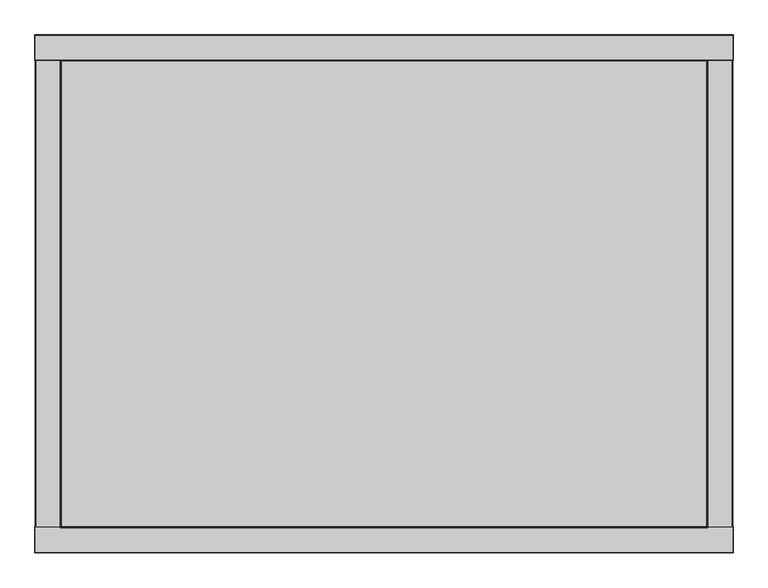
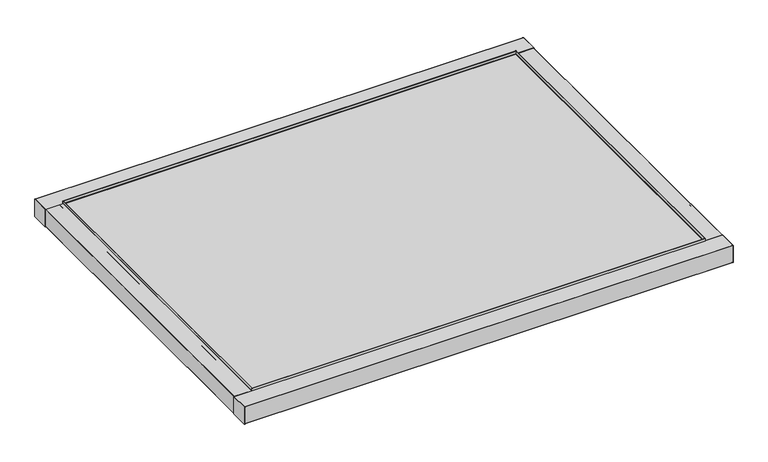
"""IFC4 building model written with IfcOpenShell, lengths in millimetres: proxy geometry, Specialy Equipment_Blindspace_Standard-Pockets-for-Roller-Blinds : 3500 mm x 2600 mm with 130 x 130 mm Box."""

import ifcopenshell
import ifcopenshell.guid

model = None  # the IFC model being written
_history = None  # IfcOwnerHistory: only IFC2X3 demands one
_inside = {}  # id of a spatial element -> (the spatial element, [elements in it])
_under = {}  # id of a project, library or spatial element -> (it, [spatial elements below it])
_declared = {}  # id of a project -> (the project, [libraries it declares])
_typed = {}  # id of a type object -> (the type object, [elements of that type])
_made_of = {}  # id of a material, layer set ... -> (it, [elements and type objects made of it])


def new_model(schema):
    """Start an empty IFC model of exactly this schema.

    Asked for "IFC4X3", IfcOpenShell would pick the latest addendum, in which some entities
    have other attributes; the version numbers below select the first issue.
    IFC2X3 requires an IfcOwnerHistory on every rooted entity: one is made here for all.
    """
    global model, _history
    if schema == "IFC4X3":
        model = ifcopenshell.file(schema_version=(4, 3, 0, 0))
    else:
        model = ifcopenshell.file(schema=schema)
    _inside.clear()
    _under.clear()
    _declared.clear()
    _typed.clear()
    _made_of.clear()
    _history = None
    if model.schema == "IFC2X3":
        org = make("IfcOrganization", Name="unknown")
        user = make(
            "IfcPersonAndOrganization",
            ThePerson=make("IfcPerson", FamilyName="unknown"),
            TheOrganization=org,
        )
        app = make(
            "IfcApplication",
            ApplicationDeveloper=org,
            Version="unknown",
            ApplicationFullName="unknown",
            ApplicationIdentifier="unknown",
        )
        _history = make(
            "IfcOwnerHistory",
            OwningUser=user,
            OwningApplication=app,
            ChangeAction="ADDED",
            CreationDate=0,
        )
    return model


def make(cls, **values):
    """One entity of the class cls with the attributes given. An attribute that is None is left unset."""
    return model.create_entity(
        cls, **{name: value for name, value in values.items() if value is not None}
    )


def rooted(cls, **values):
    """An entity with a GlobalId (a new one), such as an element, a storey or a relation."""
    return make(cls, GlobalId=ifcopenshell.guid.new(), OwnerHistory=_history, **values)


def si_unit(unit_type, name, prefix=None):
    """IfcSIUnit, for example si_unit("LENGTHUNIT", "METRE", prefix="MILLI")."""
    return make("IfcSIUnit", UnitType=unit_type, Prefix=prefix, Name=name)


def assignment(units):
    """IfcUnitAssignment: the units of a project."""
    return None if units is None else make("IfcUnitAssignment", Units=units)


def point(xyz):
    """IfcCartesianPoint."""
    return None if xyz is None else make("IfcCartesianPoint", Coordinates=xyz)


def direction(xyz):
    """IfcDirection."""
    return None if xyz is None else make("IfcDirection", DirectionRatios=xyz)


def frame(location, z_axis=None, x_axis=None):
    """IfcAxis2Placement3D, a coordinate frame: its origin and axes. An axis left out is left unset."""
    return make(
        "IfcAxis2Placement3D",
        Location=point(location),
        Axis=direction(z_axis),
        RefDirection=direction(x_axis),
    )


def frame_2d(location, x_axis=None):
    """IfcAxis2Placement2D, a coordinate frame in the plane: its origin and x axis."""
    return make(
        "IfcAxis2Placement2D", Location=point(location), RefDirection=direction(x_axis)
    )


def origin():
    """The frame at (0, 0, 0) with its axes left unset."""
    return frame((0.0, 0.0, 0.0))


def place(relative_to, where):
    """IfcLocalPlacement: puts the frame where relative to a parent placement (None: the world)."""
    return make(
        "IfcLocalPlacement", PlacementRelTo=relative_to, RelativePlacement=where
    )


def context(
    kind, dimensions, precision=None, world=None, true_north=None, identifier=None
):
    """IfcGeometricRepresentationContext, for example the 3D "Model" context."""
    return make(
        "IfcGeometricRepresentationContext",
        ContextIdentifier=identifier,
        ContextType=kind,
        CoordinateSpaceDimension=dimensions,
        Precision=precision,
        WorldCoordinateSystem=world,
        TrueNorth=true_north,
    )


def project(units=None, contexts=None):
    """IfcProject with its units and contexts."""
    return rooted(
        "IfcProject",
        Name="project",
        RepresentationContexts=contexts,
        UnitsInContext=assignment(units),
    )


def spatial(cls, under=None, at=None, **own):
    """A site, building, storey or space (cls), placed at a placement, below another one or the project."""
    s = rooted(cls, ObjectPlacement=at, **own)
    if under is not None:
        _under.setdefault(under.id(), (under, []))[1].append(s)
    return s


def polyline(points):
    """IfcPolyline through the points."""
    return make("IfcPolyline", Points=[point(p) for p in points])


def circle_curve(where, radius):
    """IfcCircle in the frame where."""
    return make("IfcCircle", Position=where, Radius=radius)


def trimmed(basis, trim1, trim2, sense, master):
    """IfcTrimmedCurve: the piece of a basis curve between two trims."""
    return make(
        "IfcTrimmedCurve",
        BasisCurve=basis,
        Trim1=trim1,
        Trim2=trim2,
        SenseAgreement=sense,
        MasterRepresentation=master,
    )


def segment(curve, same_sense, transition):
    """IfcCompositeCurveSegment."""
    return make(
        "IfcCompositeCurveSegment",
        Transition=transition,
        SameSense=same_sense,
        ParentCurve=curve,
    )


def composite_curve(segments, self_intersect=None):
    """IfcCompositeCurve: segments joined end to end."""
    return make("IfcCompositeCurve", Segments=segments, SelfIntersect=self_intersect)


def outline(outer, holes=None, kind="AREA"):
    """IfcArbitraryClosedProfileDef: a profile drawn as a closed curve; with holes, ...WithVoids."""
    if holes is None:
        return make("IfcArbitraryClosedProfileDef", ProfileType=kind, OuterCurve=outer)
    return make(
        "IfcArbitraryProfileDefWithVoids",
        ProfileType=kind,
        OuterCurve=outer,
        InnerCurves=holes,
    )


def extrude(swept, where, along, depth):
    """IfcExtrudedAreaSolid: the profile swept, set in the frame where, extruded along a direction by depth."""
    return make(
        "IfcExtrudedAreaSolid",
        SweptArea=swept,
        Position=where,
        ExtrudedDirection=direction(along),
        Depth=depth,
    )


def shape(context_of_items, identifier, shape_type, items):
    """IfcShapeRepresentation: the items that make up one representation, for example the "Body"."""
    return make(
        "IfcShapeRepresentation",
        ContextOfItems=context_of_items,
        RepresentationIdentifier=identifier,
        RepresentationType=shape_type,
        Items=items,
    )


def source(mapping_origin, context_of_items, identifier, shape_type, items):
    """IfcRepresentationMap: a shape defined once, which mapped items show again and again."""
    return make(
        "IfcRepresentationMap",
        MappingOrigin=mapping_origin,
        MappedRepresentation=shape(context_of_items, identifier, shape_type, items),
    )


def transform(
    local_origin,
    x_axis=None,
    y_axis=None,
    z_axis=None,
    scale=None,
    scale2=None,
    scale3=None,
    uniform=True,
):
    """IfcCartesianTransformationOperator3D, or its non-uniform kind. x_axis, y_axis, z_axis: its Axis1, 2, 3."""
    if uniform:
        return make(
            "IfcCartesianTransformationOperator3D",
            Axis1=direction(x_axis),
            Axis2=direction(y_axis),
            LocalOrigin=point(local_origin),
            Scale=scale,
            Axis3=direction(z_axis),
        )
    return make(
        "IfcCartesianTransformationOperator3DnonUniform",
        Axis1=direction(x_axis),
        Axis2=direction(y_axis),
        LocalOrigin=point(local_origin),
        Scale=scale,
        Axis3=direction(z_axis),
        Scale2=scale2,
        Scale3=scale3,
    )


def mapped(mapping_source, mapping_target):
    """IfcMappedItem: shows the shape of a source again, moved by a transform."""
    return make(
        "IfcMappedItem", MappingSource=mapping_source, MappingTarget=mapping_target
    )


def made_of(thing, what):
    """Note that an element or type object is made of a material, layer set ...; save() writes the relation."""
    if what is not None:
        _made_of.setdefault(what.id(), (what, []))[1].append(thing)
    return thing


def element(
    cls,
    number,
    at=None,
    inside=None,
    cuts=None,
    type_object=None,
    material=None,
    context=None,
    identifier="Body",
    shape_type=None,
    held_by="IfcProductDefinitionShape",
    body=None,
    shapes=None,
    **own,
):
    """One element of the class cls, such as IfcWall. Its Tag is "e" and its number.

    at: its placement. inside: the storey or other place that contains it. cuts: it is an
    opening in that element (IfcRelVoidsElement). A single representation is given by context,
    identifier, shape_type and body (its items); several are given by shapes. held_by: the class
    of the entity that holds the representations. save() writes the other relations.
    """
    e = rooted(cls, Tag="e%d" % number, ObjectPlacement=at, **own)
    if body is not None:
        shapes = [shape(context, identifier, shape_type, body)]
    if shapes is not None:
        e.Representation = make(held_by, Representations=shapes)
    if inside is not None:
        _inside.setdefault(inside.id(), (inside, []))[1].append(e)
    if cuts is not None:
        rooted(
            "IfcRelVoidsElement", RelatingBuildingElement=cuts, RelatedOpeningElement=e
        )
    if type_object is not None:
        _typed.setdefault(type_object.id(), (type_object, []))[1].append(e)
    return made_of(e, material)


def aggregate(whole, parts):
    """IfcRelAggregates: a whole, such as a stair, and the parts it consists of."""
    return rooted("IfcRelAggregates", RelatingObject=whole, RelatedObjects=parts)


def save(model, path):
    """Write the relations noted so far, then the file.

    IfcRelAggregates (storeys below a building ...), IfcRelContainedInSpatialStructure (elements
    in a storey), IfcRelDefinesByType, IfcRelAssociatesMaterial and IfcRelDeclares: one each for
    every whole, place, type object, material and project.
    """
    for whole, parts in _under.values():
        aggregate(whole, parts)
    for where, things in _inside.values():
        rooted(
            "IfcRelContainedInSpatialStructure",
            RelatedElements=things,
            RelatingStructure=where,
        )
    for kind, things in _typed.values():
        rooted("IfcRelDefinesByType", RelatedObjects=things, RelatingType=kind)
    for what, things in _made_of.values():
        rooted("IfcRelAssociatesMaterial", RelatedObjects=things, RelatingMaterial=what)
    for by, libraries in _declared.values():
        rooted("IfcRelDeclares", RelatingContext=by, RelatedDefinitions=libraries)
    model.write(path)


def specialty_equipment_2e273301(model_context):
    return source(origin(), model_context, "Body", "SweptSolid", [
        extrude(outline(composite_curve([segment(polyline([(-1172.1451772, -20.5), (-1173.5000001, -20.5), (-1173.5000001, -0.3751424)]), True, "CONTINUOUS"), segment(trimmed(circle_curve(frame_2d((-1173.1248154, -0.3751424)), 0.3751847), [point((-1173.5000001, -0.3751424))], [point((-1172.7497998, -0.3638819))], False, "CARTESIAN"), True, "CONTINUOUS"), segment(polyline([(-1172.7497998, -0.3638819), (-1172.1451772, -20.5)]), True, "CONTINUOUS")], self_intersect=False)), frame((-1624.2, 0.0, 0.0), z_axis=(1.0, 0.0, 0.0), x_axis=(0.0, 1.0, 0.0)), (0.0, 0.0, 1.0), 3248.4),
        extrude(outline(composite_curve([segment(polyline([(-1172.1451772, -150.5), (-1172.7497998, -170.6361181)]), True, "CONTINUOUS"), segment(trimmed(circle_curve(frame_2d((-1173.1248154, -170.6248576)), 0.3751847), [point((-1172.7497998, -170.6361181))], [point((-1173.5000001, -170.6248576))], False, "CARTESIAN"), True, "CONTINUOUS"), segment(polyline([(-1173.5000001, -170.6248576), (-1173.5000001, -150.5), (-1172.1451772, -150.5)]), True, "CONTINUOUS")], self_intersect=False)), frame((-1624.2, 0.0, 0.0), z_axis=(1.0, 0.0, 0.0), x_axis=(0.0, 1.0, 0.0)), (0.0, 0.0, 1.0), 3248.4),
        extrude(outline(composite_curve([segment(polyline([(-20.5, 1749.25), (-20.5, 1622.1397061), (-23.0, 1620.0), (-23.0, 1643.0625125), (-28.3, 1643.0625125), (-28.3, 1650.0073096), (-23.0, 1650.0073096), (-23.0, 1738.0030209), (-28.3, 1738.0030209), (-28.3, 1744.991), (-23.0, 1744.991), (-23.0, 1747.5), (-147.9999999, 1747.5), (-147.9999999, 1744.991), (-142.6999999, 1744.991), (-142.6999999, 1738.0030209), (-147.9999999, 1738.0030209), (-147.9999999, 1650.0073096), (-142.6999999, 1650.0073096), (-142.6999999, 1643.0625125), (-147.9999999, 1643.0625125), (-147.9999999, 1622.4875145), (-54.4999999, 1622.4875145), (-54.4999999, 1627.4875145), (-51.9999999, 1627.4875145), (-51.9999999, 1620.0), (-147.9999999, 1620.0), (-150.4999999, 1622.1397061), (-150.4999999, 1749.25)]), True, "CONTINUOUS"), segment(trimmed(circle_curve(frame_2d((-149.7499999, 1749.25)), 0.75), [point((-150.4999999, 1749.25))], [point((-149.7499999, 1750.0))], False, "CARTESIAN"), True, "CONTINUOUS"), segment(polyline([(-149.7499999, 1750.0), (-21.25, 1750.0)]), True, "CONTINUOUS"), segment(trimmed(circle_curve(frame_2d((-21.25, 1749.25)), 0.75), [point((-21.25, 1750.0))], [point((-20.5, 1749.25))], False, "CARTESIAN"), True, "CONTINUOUS")], self_intersect=False)), frame((0.0, -1170.0, 0.0), z_axis=(0.0, 1.0, 0.0), x_axis=(0.0, 0.0, 1.0)), (0.0, 0.0, 1.0), 2340.0),
        extrude(outline(composite_curve([segment(polyline([(-1299.25, -20.5), (-1172.1397061, -20.5), (-1170.0, -23.0), (-1193.0625125, -23.0), (-1193.0625125, -28.3), (-1200.0073096, -28.3), (-1200.0073096, -23.0), (-1288.0030209, -23.0), (-1288.0030209, -28.3), (-1294.991, -28.3), (-1294.991, -23.0), (-1297.5, -23.0), (-1297.5, -147.9999999), (-1294.991, -147.9999999), (-1294.991, -142.6999999), (-1288.0030209, -142.6999999), (-1288.0030209, -147.9999999), (-1200.0073096, -147.9999999), (-1200.0073096, -142.6999999), (-1193.0625125, -142.6999999), (-1193.0625125, -147.9999999), (-1172.4875145, -147.9999999), (-1172.4875145, -54.4999999), (-1177.4875145, -54.4999999), (-1177.4875145, -51.9999999), (-1170.0, -51.9999999), (-1170.0, -147.9999999), (-1172.1397061, -150.4999999), (-1299.25, -150.4999999)]), True, "CONTINUOUS"), segment(trimmed(circle_curve(frame_2d((-1299.25, -149.7499999)), 0.75), [point((-1299.25, -150.4999999))], [point((-1300.0, -149.7499999))], False, "CARTESIAN"), True, "CONTINUOUS"), segment(polyline([(-1300.0, -149.7499999), (-1300.0, -21.25)]), True, "CONTINUOUS"), segment(trimmed(circle_curve(frame_2d((-1299.25, -21.25)), 0.75), [point((-1300.0, -21.25))], [point((-1299.25, -20.5))], False, "CARTESIAN"), True, "CONTINUOUS")], self_intersect=False)), frame((-1750.0, 0.0, 0.0), z_axis=(1.0, 0.0, 0.0), x_axis=(0.0, 1.0, 0.0)), (0.0, 0.0, 1.0), 3500.0),
        extrude(outline(composite_curve([segment(polyline([(-20.5, 1622.8451771), (-20.5, 1624.2), (-0.3751424, 1624.2)]), True, "CONTINUOUS"), segment(trimmed(circle_curve(frame_2d((-0.3751424, 1623.8248153)), 0.3751847), [point((-0.3751424, 1624.2))], [point((-0.3638819, 1623.4497997))], False, "CARTESIAN"), True, "CONTINUOUS"), segment(polyline([(-0.3638819, 1623.4497997), (-20.5, 1622.8451771)]), True, "CONTINUOUS")], self_intersect=False)), frame((0.0, -1170.0, 0.0), z_axis=(0.0, 1.0, 0.0), x_axis=(0.0, 0.0, 1.0)), (0.0, 0.0, 1.0), 2340.0),
        extrude(outline(composite_curve([segment(polyline([(-150.4999999, 1622.8451771), (-170.636118, 1623.4497997)]), True, "CONTINUOUS"), segment(trimmed(circle_curve(frame_2d((-170.6248575, 1623.8248153)), 0.3751847), [point((-170.636118, 1623.4497997))], [point((-170.6248575, 1624.2))], False, "CARTESIAN"), True, "CONTINUOUS"), segment(polyline([(-170.6248575, 1624.2), (-150.4999999, 1624.2), (-150.4999999, 1622.8451771)]), True, "CONTINUOUS")], self_intersect=False)), frame((0.0, -1170.0, 0.0), z_axis=(0.0, 1.0, 0.0), x_axis=(0.0, 0.0, 1.0)), (0.0, 0.0, 1.0), 2340.0),
        extrude(outline(composite_curve([segment(trimmed(circle_curve(frame_2d((-21.25, -1749.25)), 0.75), [point((-20.5, -1749.25))], [point((-21.25, -1750.0))], False, "CARTESIAN"), True, "CONTINUOUS"), segment(polyline([(-21.25, -1750.0), (-149.7499999, -1750.0)]), True, "CONTINUOUS"), segment(trimmed(circle_curve(frame_2d((-149.7499999, -1749.25)), 0.75), [point((-149.7499999, -1750.0))], [point((-150.4999999, -1749.25))], False, "CARTESIAN"), True, "CONTINUOUS"), segment(polyline([(-150.4999999, -1749.25), (-150.4999999, -1622.1397061), (-147.9999999, -1620.0), (-51.9999999, -1620.0), (-51.9999999, -1627.4875145), (-54.4999999, -1627.4875145), (-54.4999999, -1622.4875145), (-147.9999999, -1622.4875145), (-147.9999999, -1643.0625125), (-142.6999999, -1643.0625125), (-142.6999999, -1650.0073096), (-147.9999999, -1650.0073096), (-147.9999999, -1738.0030209), (-142.6999999, -1738.0030209), (-142.6999999, -1744.991), (-147.9999999, -1744.991), (-147.9999999, -1747.5), (-23.0, -1747.5), (-23.0, -1744.991), (-28.3, -1744.991), (-28.3, -1738.0030209), (-23.0, -1738.0030209), (-23.0, -1650.0073096), (-28.3, -1650.0073096), (-28.3, -1643.0625125), (-23.0, -1643.0625125), (-23.0, -1620.0), (-20.5, -1622.1397061), (-20.5, -1749.25)]), True, "CONTINUOUS")], self_intersect=False)), frame((0.0, -1170.0, 0.0), z_axis=(0.0, 1.0, 0.0), x_axis=(0.0, 0.0, 1.0)), (0.0, 0.0, 1.0), 2340.0),
        extrude(outline(composite_curve([segment(polyline([(-20.5, -1622.87895), (-0.3638819, -1623.4835725)]), True, "CONTINUOUS"), segment(trimmed(circle_curve(frame_2d((-0.3751424, -1623.8585881)), 0.3751847), [point((-0.3638819, -1623.4835725))], [point((-0.3751424, -1624.2337728))], False, "CARTESIAN"), True, "CONTINUOUS"), segment(polyline([(-0.3751424, -1624.2337728), (-20.5, -1624.2337728), (-20.5, -1622.87895)]), True, "CONTINUOUS")], self_intersect=False)), frame((0.0, -1170.0, 0.0), z_axis=(0.0, 1.0, 0.0), x_axis=(0.0, 0.0, 1.0)), (0.0, 0.0, 1.0), 2340.0),
        extrude(outline(composite_curve([segment(polyline([(-150.4999999, -1622.87895), (-150.4999999, -1624.2337728), (-170.6248575, -1624.2337728)]), True, "CONTINUOUS"), segment(trimmed(circle_curve(frame_2d((-170.6248575, -1623.8585881)), 0.3751847), [point((-170.6248575, -1624.2337728))], [point((-170.636118, -1623.4835725))], False, "CARTESIAN"), True, "CONTINUOUS"), segment(polyline([(-170.636118, -1623.4835725), (-150.4999999, -1622.87895)]), True, "CONTINUOUS")], self_intersect=False)), frame((0.0, -1170.0, 0.0), z_axis=(0.0, 1.0, 0.0), x_axis=(0.0, 0.0, 1.0)), (0.0, 0.0, 1.0), 2340.0),
        extrude(outline(composite_curve([segment(trimmed(circle_curve(frame_2d((1299.25, -21.25)), 0.75), [point((1299.25, -20.5))], [point((1300.0, -21.25))], False, "CARTESIAN"), True, "CONTINUOUS"), segment(polyline([(1300.0, -21.25), (1300.0, -149.7499999)]), True, "CONTINUOUS"), segment(trimmed(circle_curve(frame_2d((1299.25, -149.7499999)), 0.75), [point((1300.0, -149.7499999))], [point((1299.25, -150.4999999))], False, "CARTESIAN"), True, "CONTINUOUS"), segment(polyline([(1299.25, -150.4999999), (1172.1397061, -150.4999999), (1170.0, -147.9999999), (1170.0, -51.9999999), (1177.4875145, -51.9999999), (1177.4875145, -54.4999999), (1172.4875145, -54.4999999), (1172.4875145, -147.9999999), (1193.0625125, -147.9999999), (1193.0625125, -142.6999999), (1200.0073096, -142.6999999), (1200.0073096, -147.9999999), (1288.0030209, -147.9999999), (1288.0030209, -142.6999999), (1294.991, -142.6999999), (1294.991, -147.9999999), (1297.5, -147.9999999), (1297.5, -23.0), (1294.991, -23.0), (1294.991, -28.3), (1288.0030209, -28.3), (1288.0030209, -23.0), (1200.0073096, -23.0), (1200.0073096, -28.3), (1193.0625125, -28.3), (1193.0625125, -23.0), (1170.0, -23.0), (1172.1397061, -20.5), (1299.25, -20.5)]), True, "CONTINUOUS")], self_intersect=False)), frame((-1750.0, 0.0, 0.0), z_axis=(1.0, 0.0, 0.0), x_axis=(0.0, 1.0, 0.0)), (0.0, 0.0, 1.0), 3500.0),
        extrude(outline(composite_curve([segment(polyline([(1172.1451772, -20.5), (1172.7497998, -0.3638819)]), True, "CONTINUOUS"), segment(trimmed(circle_curve(frame_2d((1173.1248154, -0.3751424)), 0.3751847), [point((1172.7497998, -0.3638819))], [point((1173.5000001, -0.3751424))], False, "CARTESIAN"), True, "CONTINUOUS"), segment(polyline([(1173.5000001, -0.3751424), (1173.5000001, -20.5), (1172.1451772, -20.5)]), True, "CONTINUOUS")], self_intersect=False)), frame((-1624.2, 0.0, 0.0), z_axis=(1.0, 0.0, 0.0), x_axis=(0.0, 1.0, 0.0)), (0.0, 0.0, 1.0), 3248.4),
        extrude(outline(composite_curve([segment(polyline([(1172.1451772, -150.5), (1173.5000001, -150.5), (1173.5000001, -170.6248576)]), True, "CONTINUOUS"), segment(trimmed(circle_curve(frame_2d((1173.1248154, -170.6248576)), 0.3751847), [point((1173.5000001, -170.6248576))], [point((1172.7497998, -170.6361181))], False, "CARTESIAN"), True, "CONTINUOUS"), segment(polyline([(1172.7497998, -170.6361181), (1172.1451772, -150.5)]), True, "CONTINUOUS")], self_intersect=False)), frame((-1624.2, 0.0, 0.0), z_axis=(1.0, 0.0, 0.0), x_axis=(0.0, 1.0, 0.0)), (0.0, 0.0, 1.0), 3248.4),
        extrude(outline(polyline([(1730.0, 1280.0), (1730.0, -1280.0), (-1730.0, -1280.0), (-1730.0, 1280.0), (1730.0, 1280.0)])), frame((0.0, 0.0, -42.4999999), z_axis=(0.0, 0.0, 1.0), x_axis=(1.0, 0.0, 0.0)), (0.0, 0.0, 1.0), 5.0),
        extrude(outline(polyline([(1752.5, -1300.0), (1750.0, -1300.0), (1750.0, -1170.0), (1752.5, -1170.0), (1752.5, -1300.0)])), frame((0.0, 0.0, -150.5), z_axis=(0.0, 0.0, 1.0), x_axis=(1.0, 0.0, 0.0)), (0.0, 0.0, 1.0), 130.0),
        extrude(outline(polyline([(1752.5, 1300.0), (1752.5, 1170.0), (1750.0, 1170.0), (1750.0, 1300.0), (1752.5, 1300.0)])), frame((0.0, 0.0, -150.5), z_axis=(0.0, 0.0, 1.0), x_axis=(1.0, 0.0, 0.0)), (0.0, 0.0, 1.0), 130.0),
        extrude(outline(polyline([(-1752.5, -1300.0), (-1752.5, -1170.0), (-1750.0, -1170.0), (-1750.0, -1300.0), (-1752.5, -1300.0)])), frame((0.0, 0.0, -150.5), z_axis=(0.0, 0.0, 1.0), x_axis=(1.0, 0.0, 0.0)), (0.0, 0.0, 1.0), 130.0),
        extrude(outline(polyline([(-1752.5, 1300.0), (-1750.0, 1300.0), (-1750.0, 1170.0), (-1752.5, 1170.0), (-1752.5, 1300.0)])), frame((0.0, 0.0, -150.5), z_axis=(0.0, 0.0, 1.0), x_axis=(1.0, 0.0, 0.0)), (0.0, 0.0, 1.0), 130.0),
    ])


if __name__ == "__main__":
    model = new_model("IFC4")
    model_context = context("Model", 3, world=origin())
    ifc_project = project(units=[si_unit("LENGTHUNIT", "METRE", prefix="MILLI")], contexts=[model_context])
    site = spatial("IfcSite", under=ifc_project)
    building = spatial("IfcBuilding", under=site)
    placement = place(None, origin())
    specialty_equipment_shape = specialty_equipment_2e273301(model_context)
    element("IfcBuildingElementProxy", 1, Name="Specialy Equipment_Blindspace_Standard-Pockets-for-Roller-Blinds : 3500 mm x 2600 mm with 130 x 130 mm Box", ObjectType="Specialy Equipment_Blindspace_Standard-Pockets-for-Roller-Blinds : 3500 mm x 2600 mm with 130 x 130 mm Box", at=placement, inside=building, context=model_context, shape_type="MappedRepresentation", body=[
        mapped(specialty_equipment_shape, transform((0.0, 0.0, 0.0), x_axis=(1.0, 0.0, 0.0), y_axis=(0.0, 1.0, 0.0), z_axis=(0.0, 0.0, 1.0))),
    ])
    save(model, "model.ifc")
